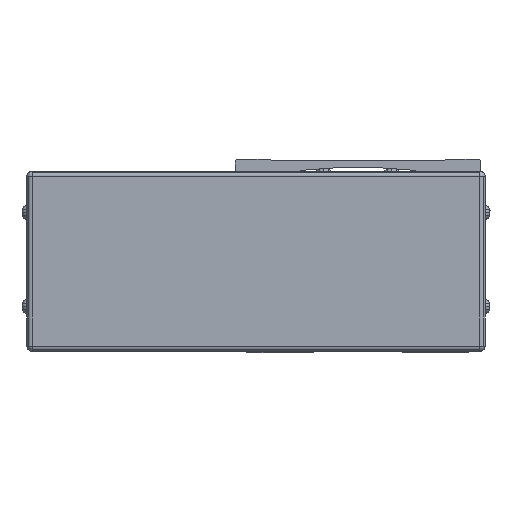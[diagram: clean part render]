
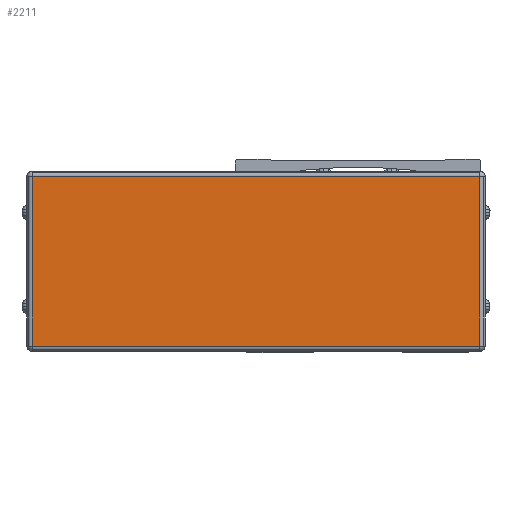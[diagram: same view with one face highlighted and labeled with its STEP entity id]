
A CAD part, front view. The second image highlights one B-rep face of the part: STEP entity #2211.
In plain terms, the highlighted planar face has unit normal (0, -1, 0).
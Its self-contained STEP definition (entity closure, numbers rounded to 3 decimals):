
#2211=ADVANCED_FACE('',(#6154),#6155,.F.);
#6154=FACE_OUTER_BOUND('',#12151,.T.);
#6155=PLANE('',#12152);
#12151=EDGE_LOOP('',(#19942,#19943,#19944,#19945));
#12152=AXIS2_PLACEMENT_3D('',#19946,#19947,#19948);
#19942=ORIENTED_EDGE('',*,*,#37176,.T.);
#19943=ORIENTED_EDGE('',*,*,#37177,.T.);
#19944=ORIENTED_EDGE('',*,*,#37178,.T.);
#19945=ORIENTED_EDGE('',*,*,#37179,.T.);
#19946=CARTESIAN_POINT('',(-39.,-13.778,-42.5));
#19947=DIRECTION('',(0.0,1.0,-0.0));
#19948=DIRECTION('',(-1.0,0.0,0.0));
#37176=EDGE_CURVE('',#44338,#44339,#44340,.T.);
#37177=EDGE_CURVE('',#44339,#44341,#44342,.T.);
#37178=EDGE_CURVE('',#44341,#44343,#44344,.T.);
#37179=EDGE_CURVE('',#44343,#44338,#44345,.T.);
#44338=VERTEX_POINT('',#54697);
#44339=VERTEX_POINT('',#54698);
#44340=LINE('',#54699,#54700);
#44341=VERTEX_POINT('',#54701);
#44342=LINE('',#54702,#54703);
#44343=VERTEX_POINT('',#54704);
#44344=LINE('',#54705,#54706);
#44345=LINE('',#54707,#54708);
#54697=CARTESIAN_POINT('',(-124.7,-13.778,-40.5));
#54698=CARTESIAN_POINT('',(46.7,-13.778,-40.5));
#54699=CARTESIAN_POINT('',(-39.,-13.778,-40.5));
#54700=VECTOR('',#69297,10.0);
#54701=CARTESIAN_POINT('',(46.7,-13.778,24.5));
#54702=CARTESIAN_POINT('',(46.7,-13.778,-42.5));
#54703=VECTOR('',#69298,10.0);
#54704=CARTESIAN_POINT('',(-124.7,-13.778,24.5));
#54705=CARTESIAN_POINT('',(-39.,-13.778,24.5));
#54706=VECTOR('',#69299,10.0);
#54707=CARTESIAN_POINT('',(-124.7,-13.778,-42.5));
#54708=VECTOR('',#69300,10.0);
#69297=DIRECTION('',(1.0,0.0,0.0));
#69298=DIRECTION('',(0.0,0.0,1.0));
#69299=DIRECTION('',(-1.0,0.0,0.0));
#69300=DIRECTION('',(-0.0,0.0,-1.0));
